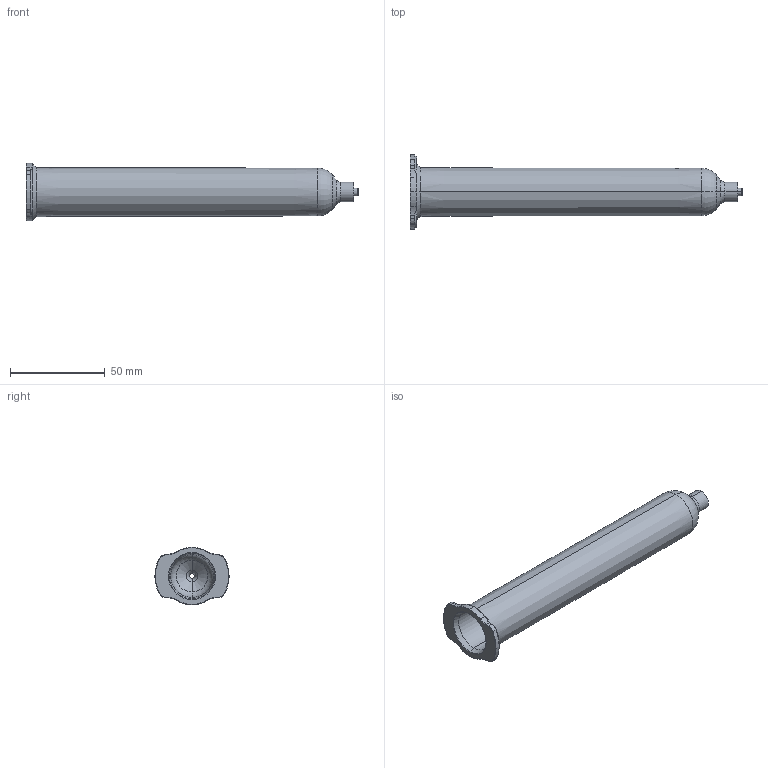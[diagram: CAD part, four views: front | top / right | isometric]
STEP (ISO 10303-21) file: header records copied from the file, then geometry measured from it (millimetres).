
FILE_DESCRIPTION (( 'STEP AP214' ), '1' );
FILE_NAME ('8001005_CUS.STEP', '2022-06-04T14:47:31', ( '' ), ( '' ), 'SwSTEP 2.0', 'SolidWorks 2020', '' );
FILE_SCHEMA (( 'AUTOMOTIVE_DESIGN' ));
Length unit declared in the file: millimetre
Products named in the file (1): 8001005_CUS
Bounding box: 175.2 x 39.17 x 30.35 mm (x, y, z)
Volume: 20442.3 mm3; surface area: 26527.3 mm2
Topology: 1 solids, 1 shells, 401 faces, 952 edges, 571 vertices
Faces by surface type: cone 95, plane 95, torus 86, cylinder 82, bspline 43
Entity records: 14167 total; most frequent: CARTESIAN_POINT 4980, DIRECTION 1965, ORIENTED_EDGE 1904, EDGE_CURVE 952, AXIS2_PLACEMENT_3D 776, VERTEX_POINT 571, EDGE_LOOP 421, CIRCLE 417
